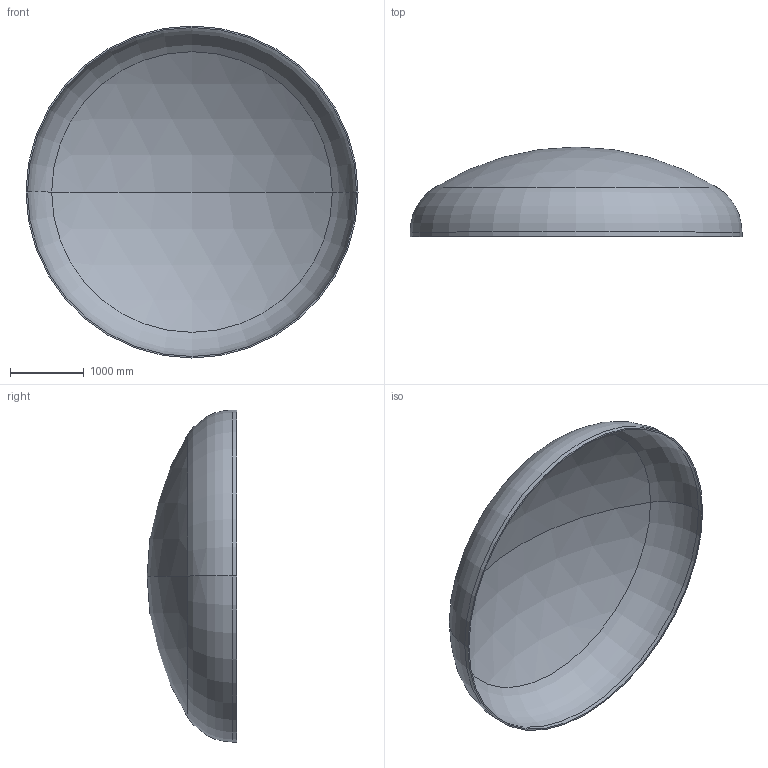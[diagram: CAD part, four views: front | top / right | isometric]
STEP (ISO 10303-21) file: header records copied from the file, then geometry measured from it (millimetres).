
FILE_DESCRIPTION (( 'STEP AP203' ), '1' );
FILE_NAME ('DIN 28013 Korbbogenform_-_Boden DIN 28013 - 4500 x 60 - I - s=20.step', '2016-07-01T23:08:56', ( '' ), ( '' ), 'SwSTEP 2.0', 'SolidWorks 2013', '' );
FILE_SCHEMA (( 'CONFIG_CONTROL_DESIGN' ));
Length unit declared in the file: millimetre
Products named in the file (1): DIN 28013 Korbbogenform_-_Boden DIN 28013 - 4500 x 60 - I - s=20
Bounding box: 4500 x 1213.67 x 4500 mm (x, y, z)
Volume: 455118464.5 mm3; surface area: 45794152.8 mm2
Topology: 1 solids, 1 shells, 13 faces, 24 edges, 14 vertices
Faces by surface type: torus 4, cylinder 4, sphere 4, plane 1
Entity records: 407 total; most frequent: DIRECTION 72, CARTESIAN_POINT 52, ORIENTED_EDGE 48, AXIS2_PLACEMENT_3D 34, EDGE_CURVE 24, CIRCLE 20, EDGE_LOOP 14, VERTEX_POINT 14
